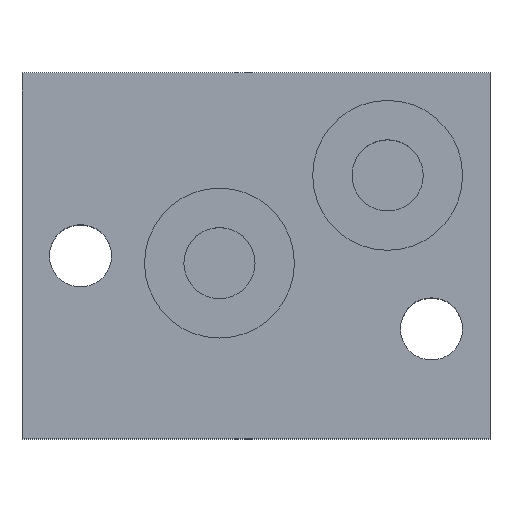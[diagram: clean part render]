
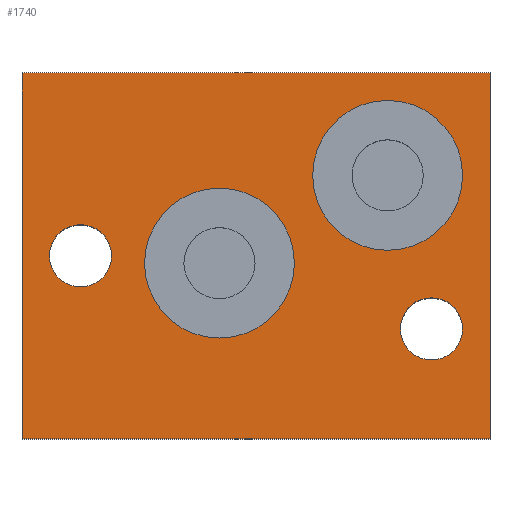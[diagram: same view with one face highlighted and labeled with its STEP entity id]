
A CAD part, top view. The second image highlights one B-rep face of the part: STEP entity #1740.
In plain terms, the highlighted planar face has unit normal (0, 0, 1).
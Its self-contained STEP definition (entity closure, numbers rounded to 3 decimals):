
#1740=ADVANCED_FACE('', (#1750,#1760,#1770,#1780,#1790), #1800, .T.);
#7900=AXIS2_PLACEMENT_3D('Ax2Pl3d', #7910, #7920, #7930);
#7940=AXIS2_PLACEMENT_3D('Ax2Pl3d', #7950, #7960, #7970);
#7980=AXIS2_PLACEMENT_3D('Ax2Pl3d', #7990, #8000, #8010);
#8020=AXIS2_PLACEMENT_3D('Ax2Pl3d', #8030, #8040, #8050);
#8060=AXIS2_PLACEMENT_3D('Ax2Pl3d', #8070, #8080, #8090);
#19240=CARTESIAN_POINT('', (0.,0.,34.));
#19250=CARTESIAN_POINT('', (0.,0.,34.));
#19260=CARTESIAN_POINT('', (0.,50.,34.));
#19350=CARTESIAN_POINT('', (64.,50.,34.));
#19360=CARTESIAN_POINT('', (64.,50.,34.));
#19370=CARTESIAN_POINT('', (64.,0.,34.));
#19420=CARTESIAN_POINT('', (64.,0.,34.));
#7910=CARTESIAN_POINT('HicPkt', (50.,36.,34.));
#19680=CARTESIAN_POINT('', (50.,46.25,34.));
#7950=CARTESIAN_POINT('HicPkt', (0.,50.,34.));
#19690=CARTESIAN_POINT('', (0.,50.,34.));
#7990=CARTESIAN_POINT('HicPkt', (27.,24.,34.));
#19700=CARTESIAN_POINT('', (27.,34.25,34.));
#8030=CARTESIAN_POINT('HicPkt', (56.,15.,34.));
#19710=CARTESIAN_POINT('', (56.,19.25,34.));
#8070=CARTESIAN_POINT('HicPkt', (8.,25.,34.));
#19720=CARTESIAN_POINT('', (8.,29.25,34.));
#22290=CIRCLE('Circle', #7900, 10.25);
#22300=CIRCLE('Circle', #7980, 10.25);
#22310=CIRCLE('Circle', #8020, 4.25);
#22320=CIRCLE('Circle', #8060, 4.25);
#23550=DIRECTION('', (0.,-1.,0.));
#23600=DIRECTION('', (0.,1.,0.));
#23630=DIRECTION('', (1.,0.,0.));
#7920=DIRECTION('Axis', (0.,0.,1.));
#7930=DIRECTION('RefDirection', (1.,0.,0.));
#7960=DIRECTION('Axis', (0.,0.,1.));
#7970=DIRECTION('RefDirection', (1.,0.,0.));
#23650=DIRECTION('', (-1.,0.,0.));
#8000=DIRECTION('Axis', (0.,0.,1.));
#8010=DIRECTION('RefDirection', (1.,0.,0.));
#8040=DIRECTION('Axis', (0.,0.,1.));
#8050=DIRECTION('RefDirection', (1.,0.,0.));
#8080=DIRECTION('Axis', (0.,0.,1.));
#8090=DIRECTION('RefDirection', (1.,0.,0.));
#24680=EDGE_CURVE('', #24690, #24660, #24700, .T.);
#24850=EDGE_CURVE('', #24860, #24830, #24870, .T.);
#24960=EDGE_CURVE('', #24660, #24860, #24970, .T.);
#25480=EDGE_CURVE('', #25490, #25490, #22290, .T.);
#25500=EDGE_CURVE('', #24830, #24690, #25510, .T.);
#25520=EDGE_CURVE('', #25530, #25530, #22300, .T.);
#25540=EDGE_CURVE('', #25550, #25550, #22310, .T.);
#25560=EDGE_CURVE('', #25570, #25570, #22320, .T.);
#31300=EDGE_LOOP('Edge_loop', (#31310,#31320,#31330,#31340));
#31350=EDGE_LOOP('Edge_loop', (#31360));
#31370=EDGE_LOOP('Edge_loop', (#31380));
#31390=EDGE_LOOP('Edge_loop', (#31400));
#31410=EDGE_LOOP('Edge_loop', (#31420));
#1760=FACE_BOUND('', #31350, .T.);
#1770=FACE_BOUND('', #31370, .T.);
#1780=FACE_BOUND('', #31390, .T.);
#1790=FACE_BOUND('', #31410, .T.);
#1750=FACE_OUTER_BOUND('Face_outer_bound', #31300, .T.);
#24700=LINE('Line', #19250, #37450);
#24870=LINE('Line', #19360, #37500);
#24970=LINE('Line', #19420, #37530);
#25510=LINE('Line', #19690, #37550);
#31310=ORIENTED_EDGE('', *, *, #24680, .T.);
#31320=ORIENTED_EDGE('', *, *, #24960, .T.);
#31330=ORIENTED_EDGE('', *, *, #24850, .T.);
#31340=ORIENTED_EDGE('', *, *, #25500, .T.);
#31360=ORIENTED_EDGE('', *, *, #25480, .F.);
#31380=ORIENTED_EDGE('', *, *, #25520, .F.);
#31400=ORIENTED_EDGE('', *, *, #25540, .F.);
#31420=ORIENTED_EDGE('', *, *, #25560, .F.);
#1800=PLANE('Plane', #7940);
#37450=VECTOR('', #23550, 50.);
#37500=VECTOR('', #23600, 50.);
#37530=VECTOR('', #23630, 64.);
#37550=VECTOR('', #23650, 64.);
#24660=VERTEX_POINT('', #19240);
#24690=VERTEX_POINT('', #19260);
#24830=VERTEX_POINT('', #19350);
#24860=VERTEX_POINT('', #19370);
#25490=VERTEX_POINT('', #19680);
#25530=VERTEX_POINT('', #19700);
#25550=VERTEX_POINT('', #19710);
#25570=VERTEX_POINT('', #19720);
